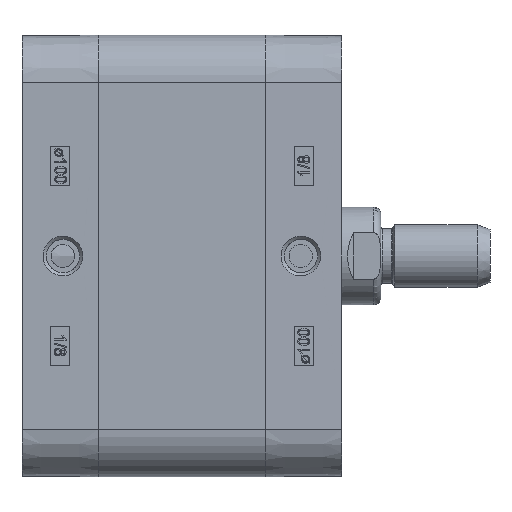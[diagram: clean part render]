
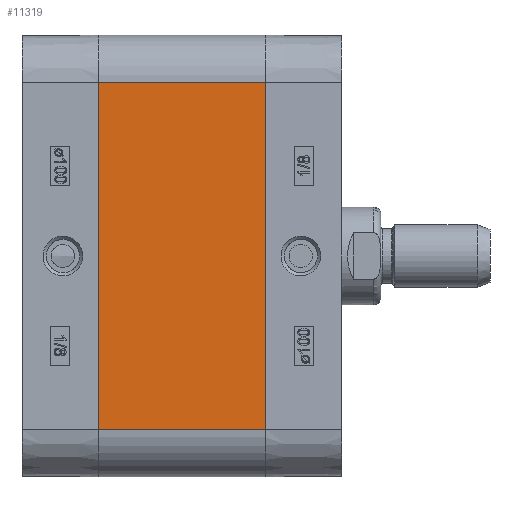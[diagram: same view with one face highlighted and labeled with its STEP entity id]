
A CAD part, left-side view. The second image highlights one B-rep face of the part: STEP entity #11319.
In plain terms, the highlighted planar face has unit normal (-1, 0, 0).
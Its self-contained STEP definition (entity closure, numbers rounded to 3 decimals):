
#5684=CARTESIAN_POINT('',(-56.65,-43.,44.4));
#5685=VERTEX_POINT('',#5684);
#5692=CARTESIAN_POINT('',(-56.65,-43.,-44.4));
#5693=VERTEX_POINT('',#5692);
#5694=CARTESIAN_POINT('',(-56.65,-43.,-44.4));
#5695=DIRECTION('',(0.0,0.0,1.0));
#5696=VECTOR('',#5695,88.8);
#5697=LINE('',#5694,#5696);
#5698=EDGE_CURVE('',#5693,#5685,#5697,.T.);
#11277=CARTESIAN_POINT('',(-56.65,0.0,-44.4));
#11278=VERTEX_POINT('',#11277);
#11279=CARTESIAN_POINT('',(-56.65,0.0,-44.4));
#11280=DIRECTION('',(0.0,-1.0,0.0));
#11281=VECTOR('',#11280,43.);
#11282=LINE('',#11279,#11281);
#11283=EDGE_CURVE('',#11278,#5693,#11282,.T.);
#11296=CARTESIAN_POINT('',(-56.65,0.0,-44.4));
#11297=DIRECTION('',(-1.0,0.0,0.0));
#11298=DIRECTION('',(0.0,0.0,1.0));
#11299=AXIS2_PLACEMENT_3D('',#11296,#11297,#11298);
#11300=PLANE('',#11299);
#11301=ORIENTED_EDGE('',*,*,#5698,.T.);
#11302=CARTESIAN_POINT('',(-56.65,0.0,44.4));
#11303=VERTEX_POINT('',#11302);
#11304=CARTESIAN_POINT('',(-56.65,0.0,44.4));
#11305=DIRECTION('',(0.0,-1.0,0.0));
#11306=VECTOR('',#11305,43.);
#11307=LINE('',#11304,#11306);
#11308=EDGE_CURVE('',#11303,#5685,#11307,.T.);
#11309=ORIENTED_EDGE('',*,*,#11308,.F.);
#11310=CARTESIAN_POINT('',(-56.65,0.0,-44.4));
#11311=DIRECTION('',(0.0,0.0,1.0));
#11312=VECTOR('',#11311,88.8);
#11313=LINE('',#11310,#11312);
#11314=EDGE_CURVE('',#11278,#11303,#11313,.T.);
#11315=ORIENTED_EDGE('',*,*,#11314,.F.);
#11316=ORIENTED_EDGE('',*,*,#11283,.T.);
#11317=EDGE_LOOP('',(#11301,#11309,#11315,#11316));
#11318=FACE_OUTER_BOUND('',#11317,.T.);
#11319=ADVANCED_FACE('',(#11318),#11300,.T.);
